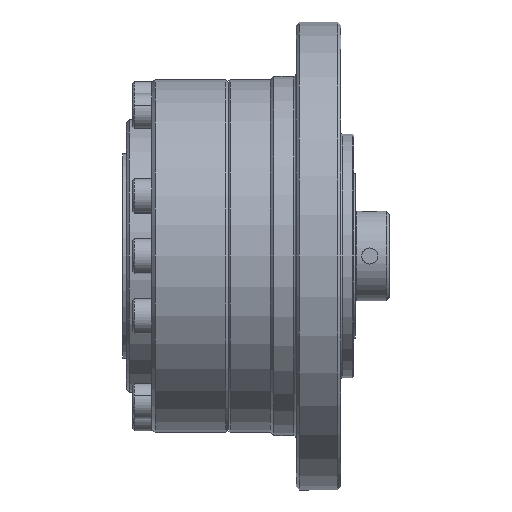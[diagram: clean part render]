
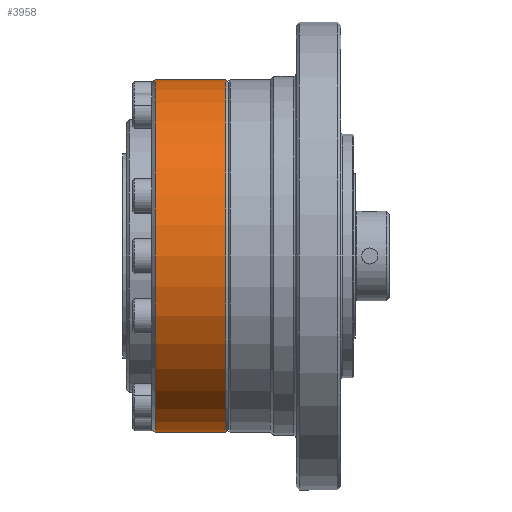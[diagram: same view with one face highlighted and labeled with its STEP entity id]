
A CAD part, front view. The second image highlights one B-rep face of the part: STEP entity #3958.
In plain terms, the highlighted cylindrical face has radius 27.5 mm (diameter 55 mm), a partial arc.
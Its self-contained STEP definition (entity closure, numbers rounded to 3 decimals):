
#156 = CYLINDRICAL_SURFACE ( 'NONE', #14197, 27.5 ) ;
#695 = FACE_OUTER_BOUND ( 'NONE', #18982, .T. ) ;
#966 = LINE ( 'NONE', #6257, #4955 ) ;
#3209 = VERTEX_POINT ( 'NONE', #12476 ) ;
#3712 = EDGE_CURVE ( 'NONE', #3209, #17463, #966, .T. ) ;
#3958 = ADVANCED_FACE ( 'NONE', ( #695 ), #156, .T. ) ;
#4405 = AXIS2_PLACEMENT_3D ( 'NONE', #16324, #6250, #17990 ) ;
#4562 = CARTESIAN_POINT ( 'NONE',  ( -5.632, -4.406, 100.5 ) ) ;
#4728 = CIRCLE ( 'NONE', #11702, 27.5 ) ;
#4762 = ORIENTED_EDGE ( 'NONE', *, *, #6097, .T. ) ;
#4955 = VECTOR ( 'NONE', #17997, 1000. ) ;
#5153 = CARTESIAN_POINT ( 'NONE',  ( -17.132, -4.406, 100.5 ) ) ;
#5237 = ORIENTED_EDGE ( 'NONE', *, *, #3712, .F. ) ;
#5297 = CARTESIAN_POINT ( 'NONE',  ( -6.132, -4.406, 73. ) ) ;
#5387 = LINE ( 'NONE', #4562, #13771 ) ;
#6097 = EDGE_CURVE ( 'NONE', #18312, #17463, #7672, .T. ) ;
#6250 = DIRECTION ( 'NONE',  ( 1., 0., 0. ) ) ;
#6257 = CARTESIAN_POINT ( 'NONE',  ( -5.632, -4.406, 45.5 ) ) ;
#6446 = ORIENTED_EDGE ( 'NONE', *, *, #8308, .T. ) ;
#6978 = DIRECTION ( 'NONE',  ( 0., 0., -1. ) ) ;
#7672 = CIRCLE ( 'NONE', #4405, 27.5 ) ;
#8308 = EDGE_CURVE ( 'NONE', #3209, #11321, #4728, .T. ) ;
#8961 = ORIENTED_EDGE ( 'NONE', *, *, #13200, .T. ) ;
#10257 = CARTESIAN_POINT ( 'NONE',  ( -5.632, -4.406, 73. ) ) ;
#11321 = VERTEX_POINT ( 'NONE', #16911 ) ;
#11702 = AXIS2_PLACEMENT_3D ( 'NONE', #5297, #17066, #6978 ) ;
#12476 = CARTESIAN_POINT ( 'NONE',  ( -6.132, -4.406, 45.5 ) ) ;
#13200 = EDGE_CURVE ( 'NONE', #11321, #18312, #5387, .T. ) ;
#13771 = VECTOR ( 'NONE', #19697, 1000. ) ;
#14197 = AXIS2_PLACEMENT_3D ( 'NONE', #10257, #20318, #15319 ) ;
#15319 = DIRECTION ( 'NONE',  ( 0., 0., 1. ) ) ;
#16324 = CARTESIAN_POINT ( 'NONE',  ( -17.132, -4.406, 73. ) ) ;
#16911 = CARTESIAN_POINT ( 'NONE',  ( -6.132, -4.406, 100.5 ) ) ;
#17066 = DIRECTION ( 'NONE',  ( -1., 0., 0. ) ) ;
#17320 = CARTESIAN_POINT ( 'NONE',  ( -17.132, -4.406, 45.5 ) ) ;
#17463 = VERTEX_POINT ( 'NONE', #17320 ) ;
#17990 = DIRECTION ( 'NONE',  ( 0., 0., 1. ) ) ;
#17997 = DIRECTION ( 'NONE',  ( -1., 0., 0. ) ) ;
#18312 = VERTEX_POINT ( 'NONE', #5153 ) ;
#18982 = EDGE_LOOP ( 'NONE', ( #5237, #6446, #8961, #4762 ) ) ;
#19697 = DIRECTION ( 'NONE',  ( -1., 0., 0. ) ) ;
#20318 = DIRECTION ( 'NONE',  ( -1., 0., 0. ) ) ;
